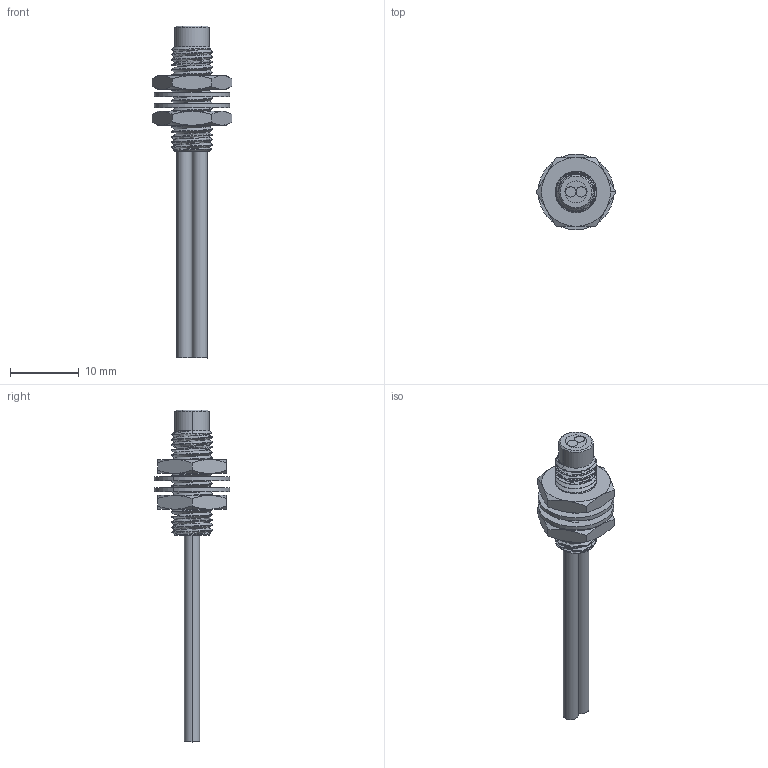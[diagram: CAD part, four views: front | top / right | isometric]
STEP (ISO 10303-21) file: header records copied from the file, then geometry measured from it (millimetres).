
FILE_DESCRIPTION (( 'STEP AP214' ), '1' );
FILE_NAME ('FD-620-15H1.STEP', '2019-06-18T02:33:04', ( '' ), ( '' ), 'SwSTEP 2.0', 'SolidWorks 2018', '' );
FILE_SCHEMA (( 'AUTOMOTIVE_DESIGN' ));
Length unit declared in the file: millimetre
Products named in the file (1): FD-620-15H1
Bounding box: 11.55 x 11 x 48.2 mm (x, y, z)
Volume: 950.7 mm3; surface area: 1702.7 mm2
Topology: 5 solids, 5 shells, 216 faces, 570 edges, 370 vertices
Faces by surface type: cylinder 95, plane 65, cone 48, bspline 8
Entity records: 11479 total; most frequent: CARTESIAN_POINT 6281, ORIENTED_EDGE 1140, DIRECTION 958, EDGE_CURVE 570, VERTEX_POINT 370, AXIS2_PLACEMENT_3D 364, LINE 230, VECTOR 230
